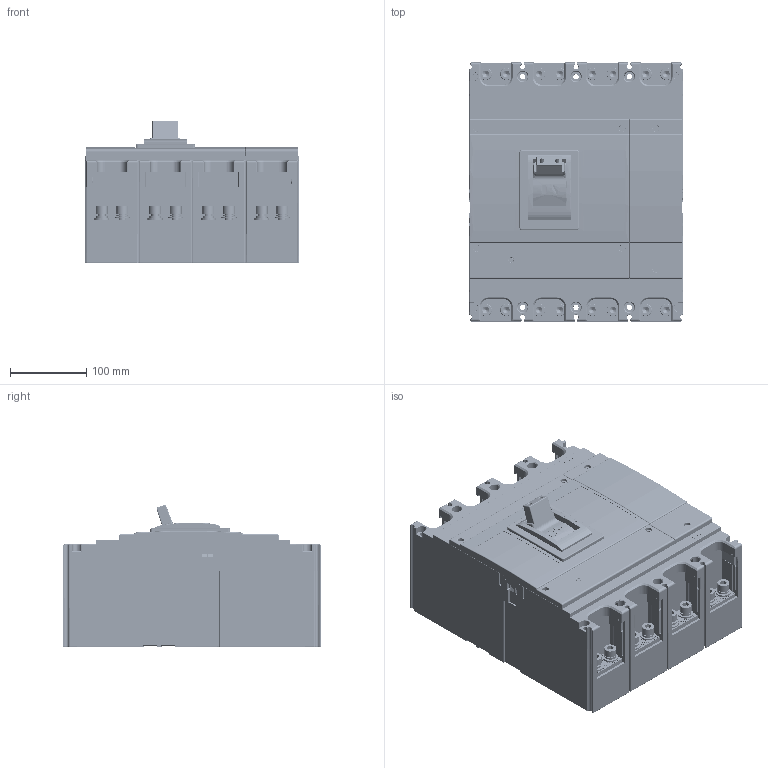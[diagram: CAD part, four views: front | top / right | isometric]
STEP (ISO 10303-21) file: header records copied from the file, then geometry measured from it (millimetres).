
FILE_DESCRIPTION(/* description */ (''),/* implementation_level */ '2;1');
FILE_NAME(/* name */ 'DLX-STM6-1600+DC6-2024.stp',/* time_stamp */ '2024-10-29T16:51:55+08:00',/* author */ (''),/* organization */ (''),/* preprocessor_version */ 'ST-DEVELOPER v11',/* originating_system */ 'SIEMENS UGS NX 6.0',/* authorisation */ '');
FILE_SCHEMA (('AUTOMOTIVE_DESIGN { 1 0 10303 214 1 1 1 1 }'));
Products named in the file (1): AdmiF89F3ceu
Bounding box: 280 x 340 x 187.13 mm (x, y, z)
Volume: 5228147.5 mm3; surface area: 1682797.1 mm2
Topology: 75 solids, 78 shells, 20462 faces, 51418 edges, 33282 vertices
Faces by surface type: plane 16978, cylinder 2389, sphere 381, cone 326, torus 213, bspline 162, extrusion 13
Full cylindrical faces by diameter (mm): 2.7 x2, 2.9 x1, 3 x1, 3.8 x5, 4 x6, 4.2 x4, 4.6 x1, 4.7 x5, 5 x9, 5.5 x14, 6 x5, 6.5 x1, 8 x2, 8.5 x6, 9 x6, 10 x4, 12.6 x2, 13 x6
Entity records: 725739 total; most frequent: CARTESIAN_POINT 118062, ORIENTED_EDGE 101562, DIRECTION 96480, EDGE_CURVE 50781, VECTOR 44066, LINE 44053, VERTEX_POINT 33225, AXIS2_PLACEMENT_3D 26207
